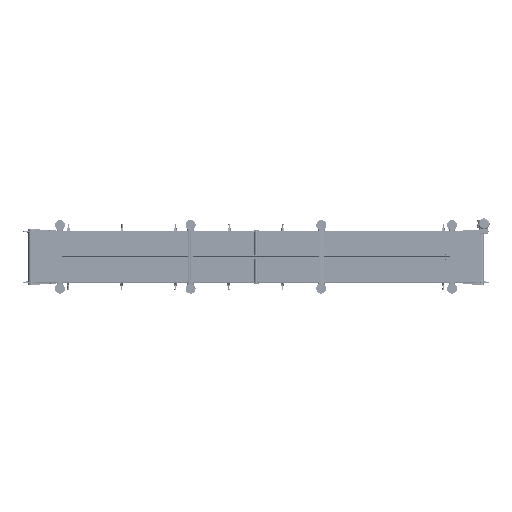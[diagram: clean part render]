
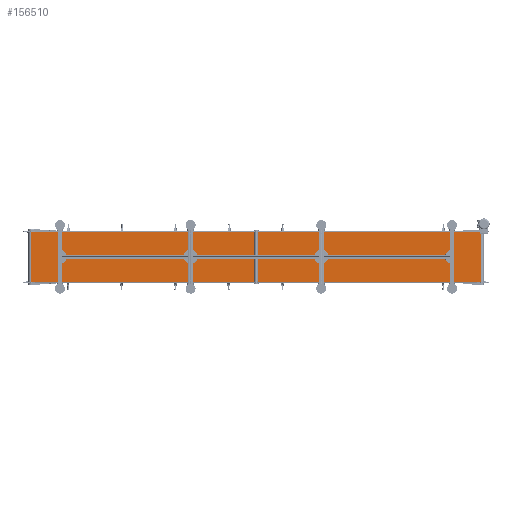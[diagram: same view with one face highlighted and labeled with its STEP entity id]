
A CAD part, front view. The second image highlights one B-rep face of the part: STEP entity #156510.
In plain terms, the highlighted planar face has unit normal (0, -1, 0).
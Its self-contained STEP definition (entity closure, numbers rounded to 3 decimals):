
#13299 = CARTESIAN_POINT ( 'NONE',  ( 2250., -27., -250. ) ) ;
#15818 = VECTOR ( 'NONE', #167460, 1000. ) ;
#23492 = ORIENTED_EDGE ( 'NONE', *, *, #276238, .T. ) ;
#47778 = VERTEX_POINT ( 'NONE', #181491 ) ;
#50327 = VECTOR ( 'NONE', #124842, 1000. ) ;
#60803 = CARTESIAN_POINT ( 'NONE',  ( 2250., -27., 250. ) ) ;
#64837 = EDGE_CURVE ( 'NONE', #281243, #179977, #122075, .T. ) ;
#65229 = VERTEX_POINT ( 'NONE', #121373 ) ;
#69227 = ORIENTED_EDGE ( 'NONE', *, *, #101672, .F. ) ;
#81264 = ORIENTED_EDGE ( 'NONE', *, *, #225014, .T. ) ;
#92867 = EDGE_LOOP ( 'NONE', ( #23492, #134850, #69227, #81264 ) ) ;
#100330 = LINE ( 'NONE', #188528, #50327 ) ;
#101672 = EDGE_CURVE ( 'NONE', #47778, #281243, #188119, .T. ) ;
#109996 = FACE_OUTER_BOUND ( 'NONE', #92867, .T. ) ;
#112006 = VECTOR ( 'NONE', #251766, 1000. ) ;
#121373 = CARTESIAN_POINT ( 'NONE',  ( -2250., -27., -250. ) ) ;
#122075 = LINE ( 'NONE', #255088, #272297 ) ;
#124100 = CARTESIAN_POINT ( 'NONE',  ( -2250., -27., -250. ) ) ;
#124842 = DIRECTION ( 'NONE',  ( 0., 0., -1. ) ) ;
#134850 = ORIENTED_EDGE ( 'NONE', *, *, #64837, .F. ) ;
#144335 = LINE ( 'NONE', #124100, #15818 ) ;
#156510 = ADVANCED_FACE ( 'NONE', ( #109996 ), #261872, .F. ) ;
#167460 = DIRECTION ( 'NONE',  ( 1., 0., 0. ) ) ;
#173649 = CARTESIAN_POINT ( 'NONE',  ( -2250., -27., 250. ) ) ;
#176466 = DIRECTION ( 'NONE',  ( 0., 0., 1. ) ) ;
#179977 = VERTEX_POINT ( 'NONE', #13299 ) ;
#181491 = CARTESIAN_POINT ( 'NONE',  ( -2250., -27., 250. ) ) ;
#188119 = LINE ( 'NONE', #212701, #112006 ) ;
#188528 = CARTESIAN_POINT ( 'NONE',  ( -2250., -27., 250. ) ) ;
#189770 = AXIS2_PLACEMENT_3D ( 'NONE', #173649, #241576, #176466 ) ;
#212701 = CARTESIAN_POINT ( 'NONE',  ( -2250., -27., 250. ) ) ;
#216026 = DIRECTION ( 'NONE',  ( 0., 0., -1. ) ) ;
#225014 = EDGE_CURVE ( 'NONE', #47778, #65229, #100330, .T. ) ;
#241576 = DIRECTION ( 'NONE',  ( 0., 1., 0. ) ) ;
#251766 = DIRECTION ( 'NONE',  ( 1., 0., 0. ) ) ;
#255088 = CARTESIAN_POINT ( 'NONE',  ( 2250., -27., 250. ) ) ;
#261872 = PLANE ( 'NONE',  #189770 ) ;
#272297 = VECTOR ( 'NONE', #216026, 1000. ) ;
#276238 = EDGE_CURVE ( 'NONE', #65229, #179977, #144335, .T. ) ;
#281243 = VERTEX_POINT ( 'NONE', #60803 ) ;
